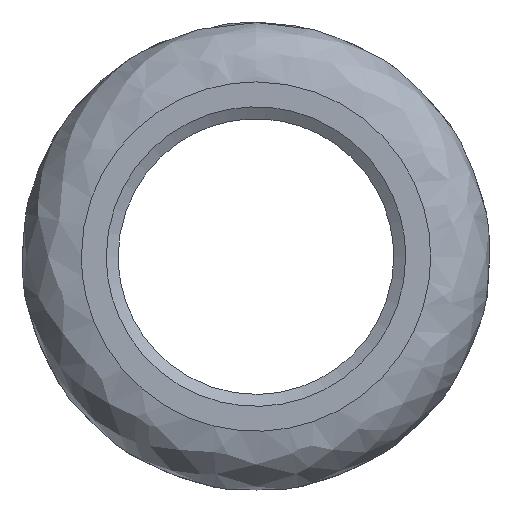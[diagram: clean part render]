
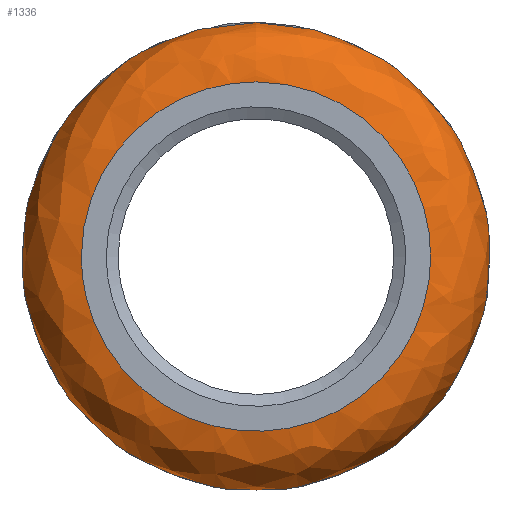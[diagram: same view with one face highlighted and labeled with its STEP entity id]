
A CAD part, left-side view. The second image highlights one B-rep face of the part: STEP entity #1336.
In plain terms, the highlighted free-form (B-spline) face has degree [2, 2] with [5, 9] control points.
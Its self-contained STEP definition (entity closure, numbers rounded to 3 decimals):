
#1290 = EDGE_CURVE('',#1291,#1293,#1295,.T.);
#1291 = VERTEX_POINT('',#1292);
#1292 = CARTESIAN_POINT('',(0.,8.75,0.));
#1293 = VERTEX_POINT('',#1294);
#1294 = CARTESIAN_POINT('',(0.,0.,8.75));
#1295 = ( BOUNDED_CURVE() B_SPLINE_CURVE(2,(#1296,#1297,#1298),
.UNSPECIFIED.,.F.,.F.) B_SPLINE_CURVE_WITH_KNOTS((3,3),(0.,
1.571),.PIECEWISE_BEZIER_KNOTS.) CURVE() 
GEOMETRIC_REPRESENTATION_ITEM() RATIONAL_B_SPLINE_CURVE((1.,
0.707,1.)) REPRESENTATION_ITEM('') );
#1296 = CARTESIAN_POINT('',(0.,8.75,0.));
#1297 = CARTESIAN_POINT('',(0.,8.75,8.75));
#1298 = CARTESIAN_POINT('',(0.,0.,8.75));
#1300 = EDGE_CURVE('',#1293,#1291,#1301,.T.);
#1301 = ( BOUNDED_CURVE() B_SPLINE_CURVE(2,(#1302,#1303,#1304,#1305,
#1306,#1307,#1308),.UNSPECIFIED.,.F.,.F.) B_SPLINE_CURVE_WITH_KNOTS((3,2
    ,2,3),(1.571,3.142,4.712,6.283),
.UNSPECIFIED.) CURVE() GEOMETRIC_REPRESENTATION_ITEM() 
RATIONAL_B_SPLINE_CURVE((1.,0.707,1.,0.707,1.,
0.707,1.)) REPRESENTATION_ITEM('') );
#1302 = CARTESIAN_POINT('',(0.,0.,8.75));
#1303 = CARTESIAN_POINT('',(0.,-8.75,8.75));
#1304 = CARTESIAN_POINT('',(0.,-8.75,0.));
#1305 = CARTESIAN_POINT('',(0.,-8.75,-8.75));
#1306 = CARTESIAN_POINT('',(0.,0.,-8.75));
#1307 = CARTESIAN_POINT('',(0.,8.75,-8.75));
#1308 = CARTESIAN_POINT('',(0.,8.75,0.));
#1336 = ADVANCED_FACE('',(#1337),#1376,.T.);
#1337 = FACE_BOUND('',#1338,.T.);
#1338 = EDGE_LOOP('',(#1339,#1349,#1359,#1365,#1373,#1374,#1375));
#1339 = ORIENTED_EDGE('',*,*,#1340,.F.);
#1340 = EDGE_CURVE('',#1341,#1343,#1345,.T.);
#1341 = VERTEX_POINT('',#1342);
#1342 = CARTESIAN_POINT('',(5.121,10.871,0.));
#1343 = VERTEX_POINT('',#1344);
#1344 = CARTESIAN_POINT('',(5.121,0.,10.871));
#1345 = ( BOUNDED_CURVE() B_SPLINE_CURVE(2,(#1346,#1347,#1348),
.UNSPECIFIED.,.F.,.F.) B_SPLINE_CURVE_WITH_KNOTS((3,3),(0.,
1.571),.PIECEWISE_BEZIER_KNOTS.) CURVE() 
GEOMETRIC_REPRESENTATION_ITEM() RATIONAL_B_SPLINE_CURVE((1.,
0.707,1.)) REPRESENTATION_ITEM('') );
#1346 = CARTESIAN_POINT('',(5.121,10.871,0.));
#1347 = CARTESIAN_POINT('',(5.121,10.871,10.871)
  );
#1348 = CARTESIAN_POINT('',(5.121,0.,
    10.871));
#1349 = ORIENTED_EDGE('',*,*,#1350,.F.);
#1350 = EDGE_CURVE('',#1351,#1341,#1353,.T.);
#1351 = VERTEX_POINT('',#1352);
#1352 = CARTESIAN_POINT('',(5.121,-10.871,0.));
#1353 = ( BOUNDED_CURVE() B_SPLINE_CURVE(2,(#1354,#1355,#1356,#1357,
#1358),.UNSPECIFIED.,.F.,.F.) B_SPLINE_CURVE_WITH_KNOTS((3,2,3),(
    3.142,4.712,6.283),
.PIECEWISE_BEZIER_KNOTS.) CURVE() GEOMETRIC_REPRESENTATION_ITEM() 
RATIONAL_B_SPLINE_CURVE((1.,0.707,1.,0.707,1.)) 
REPRESENTATION_ITEM('') );
#1354 = CARTESIAN_POINT('',(5.121,-10.871,
    0.));
#1355 = CARTESIAN_POINT('',(5.121,-10.871,
    -10.871));
#1356 = CARTESIAN_POINT('',(5.121,0.,
    -10.871));
#1357 = CARTESIAN_POINT('',(5.121,10.871,-10.871
    ));
#1358 = CARTESIAN_POINT('',(5.121,10.871,
    0.));
#1359 = ORIENTED_EDGE('',*,*,#1360,.F.);
#1360 = EDGE_CURVE('',#1343,#1351,#1361,.T.);
#1361 = ( BOUNDED_CURVE() B_SPLINE_CURVE(2,(#1362,#1363,#1364),
.UNSPECIFIED.,.F.,.F.) B_SPLINE_CURVE_WITH_KNOTS((3,3),(1.571,
3.142),.PIECEWISE_BEZIER_KNOTS.) CURVE() 
GEOMETRIC_REPRESENTATION_ITEM() RATIONAL_B_SPLINE_CURVE((1.,
0.707,1.)) REPRESENTATION_ITEM('') );
#1362 = CARTESIAN_POINT('',(5.121,0.,
    10.871));
#1363 = CARTESIAN_POINT('',(5.121,-10.871,10.871
    ));
#1364 = CARTESIAN_POINT('',(5.121,-10.871,
    0.));
#1365 = ORIENTED_EDGE('',*,*,#1366,.T.);
#1366 = EDGE_CURVE('',#1343,#1293,#1367,.T.);
#1367 = ( BOUNDED_CURVE() B_SPLINE_CURVE(2,(#1368,#1369,#1370,#1371,
#1372),.UNSPECIFIED.,.F.,.F.) B_SPLINE_CURVE_WITH_KNOTS((3,2,3),(
-0.785,0.393,1.571),.UNSPECIFIED.) CURVE() 
GEOMETRIC_REPRESENTATION_ITEM() RATIONAL_B_SPLINE_CURVE((1.,
0.831,1.,0.831,1.)) REPRESENTATION_ITEM('') );
#1368 = CARTESIAN_POINT('',(5.121,0.,10.871));
#1369 = CARTESIAN_POINT('',(3.704,0.,12.289));
#1370 = CARTESIAN_POINT('',(1.852,0.,11.522));
#1371 = CARTESIAN_POINT('',(0.,0.,10.755));
#1372 = CARTESIAN_POINT('',(0.,0.,8.75));
#1373 = ORIENTED_EDGE('',*,*,#1300,.T.);
#1374 = ORIENTED_EDGE('',*,*,#1290,.T.);
#1375 = ORIENTED_EDGE('',*,*,#1366,.F.);
#1376 = ( BOUNDED_SURFACE() B_SPLINE_SURFACE(2,2,(
    (#1377,#1378,#1379,#1380,#1381,#1382,#1383,#1384,#1385)
    ,(#1386,#1387,#1388,#1389,#1390,#1391,#1392,#1393,#1394)
    ,(#1395,#1396,#1397,#1398,#1399,#1400,#1401,#1402,#1403)
    ,(#1404,#1405,#1406,#1407,#1408,#1409,#1410,#1411,#1412)
    ,(#1413,#1414,#1415,#1416,#1417,#1418,#1419,#1420,#1421
)),.UNSPECIFIED.,.F.,.T.,.F.) B_SPLINE_SURFACE_WITH_KNOTS((3,2,3),(1,2,2
    ,2,2,2,1),(-1.571,-0.393,0.785),(
    -4.712,-3.142,-1.571,0.,1.571,
    3.142,4.712),.UNSPECIFIED.) 
GEOMETRIC_REPRESENTATION_ITEM() RATIONAL_B_SPLINE_SURFACE((
    (1.,0.707,1.,0.707,1.,0.707,1.
      ,0.707,1.)
    ,(0.831,0.588,0.831,0.588
      ,0.831,0.588,0.831,0.588
      ,0.831)
    ,(1.,0.707,1.,0.707,1.,0.707,1.
      ,0.707,1.)
    ,(0.831,0.588,0.831,0.588
      ,0.831,0.588,0.831,0.588
      ,0.831)
    ,(1.,0.707,1.,0.707,1.,0.707,1.
,0.707,1.))) REPRESENTATION_ITEM('') SURFACE() );
#1377 = CARTESIAN_POINT('',(5.121,0.,10.871));
#1378 = CARTESIAN_POINT('',(5.121,-10.871,10.871
    ));
#1379 = CARTESIAN_POINT('',(5.121,-10.871,0.));
#1380 = CARTESIAN_POINT('',(5.121,-10.871,
    -10.871));
#1381 = CARTESIAN_POINT('',(5.121,0.,-10.871));
#1382 = CARTESIAN_POINT('',(5.121,10.871,-10.871
    ));
#1383 = CARTESIAN_POINT('',(5.121,10.871,0.));
#1384 = CARTESIAN_POINT('',(5.121,10.871,10.871)
  );
#1385 = CARTESIAN_POINT('',(5.121,0.,10.871));
#1386 = CARTESIAN_POINT('',(3.704,0.,12.289));
#1387 = CARTESIAN_POINT('',(3.704,-12.289,
    12.289));
#1388 = CARTESIAN_POINT('',(3.704,-12.289,0.));
#1389 = CARTESIAN_POINT('',(3.704,-12.289,
    -12.289));
#1390 = CARTESIAN_POINT('',(3.704,0.,-12.289));
#1391 = CARTESIAN_POINT('',(3.704,12.289,
    -12.289));
#1392 = CARTESIAN_POINT('',(3.704,12.289,0.));
#1393 = CARTESIAN_POINT('',(3.704,12.289,12.289
    ));
#1394 = CARTESIAN_POINT('',(3.704,0.,12.289));
#1395 = CARTESIAN_POINT('',(1.852,0.,11.522));
#1396 = CARTESIAN_POINT('',(1.852,-11.522,
    11.522));
#1397 = CARTESIAN_POINT('',(1.852,-11.522,0.));
#1398 = CARTESIAN_POINT('',(1.852,-11.522,
    -11.522));
#1399 = CARTESIAN_POINT('',(1.852,0.,-11.522));
#1400 = CARTESIAN_POINT('',(1.852,11.522,
    -11.522));
#1401 = CARTESIAN_POINT('',(1.852,11.522,0.));
#1402 = CARTESIAN_POINT('',(1.852,11.522,
    11.522));
#1403 = CARTESIAN_POINT('',(1.852,0.,11.522));
#1404 = CARTESIAN_POINT('',(0.,0.,10.755));
#1405 = CARTESIAN_POINT('',(0.,-10.755,
    10.755));
#1406 = CARTESIAN_POINT('',(0.,-10.755,0.));
#1407 = CARTESIAN_POINT('',(0.,-10.755,
    -10.755));
#1408 = CARTESIAN_POINT('',(0.,0.,-10.755));
#1409 = CARTESIAN_POINT('',(0.,10.755,
    -10.755));
#1410 = CARTESIAN_POINT('',(0.,10.755,0.));
#1411 = CARTESIAN_POINT('',(0.,10.755,
    10.755));
#1412 = CARTESIAN_POINT('',(0.,0.,10.755));
#1413 = CARTESIAN_POINT('',(0.,0.,8.75));
#1414 = CARTESIAN_POINT('',(0.,-8.75,8.75));
#1415 = CARTESIAN_POINT('',(0.,-8.75,0.));
#1416 = CARTESIAN_POINT('',(0.,-8.75,-8.75));
#1417 = CARTESIAN_POINT('',(0.,0.,-8.75));
#1418 = CARTESIAN_POINT('',(0.,8.75,-8.75));
#1419 = CARTESIAN_POINT('',(0.,8.75,0.));
#1420 = CARTESIAN_POINT('',(0.,8.75,8.75));
#1421 = CARTESIAN_POINT('',(0.,0.,8.75));
